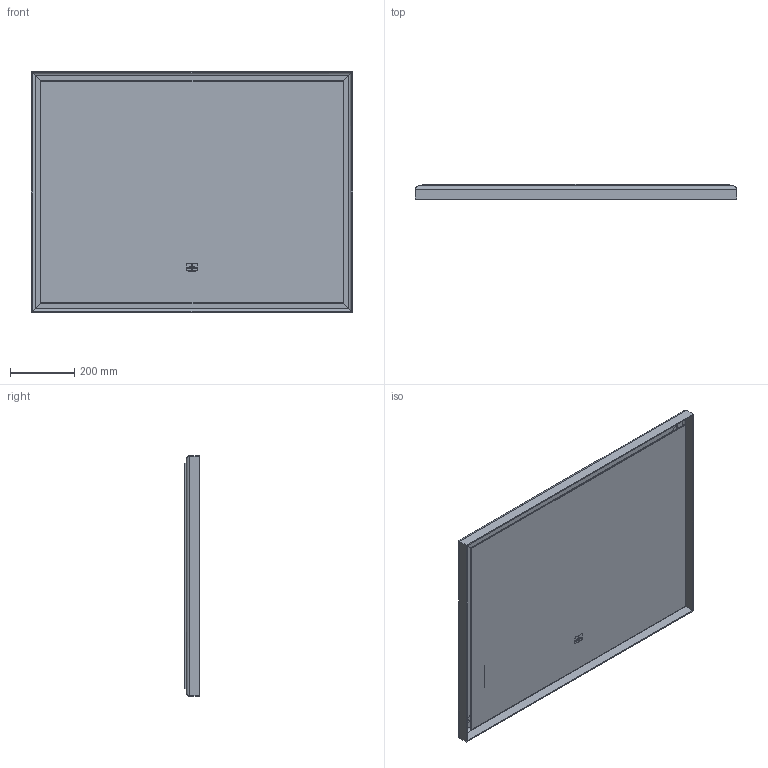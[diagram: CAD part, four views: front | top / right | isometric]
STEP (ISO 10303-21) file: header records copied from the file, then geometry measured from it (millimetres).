
FILE_DESCRIPTION(/* description */ (''),/* implementation_level */ '2;1');
FILE_NAME(/* name */ 'K:\ACAD\PERSPECT\Freisteller\V&B\Subway 3.0\A46310YY.stp',/* time_stamp */ '2020-07-28T15:24:35+02:00',/* author */ ('StegeR'),/* organization */ (''),/* preprocessor_version */ 'ST-DEVELOPER v16.1',/* originating_system */ 'Autodesk Inventor 2016',/* authorisation */ '');
FILE_SCHEMA (('AUTOMOTIVE_DESIGN { 1 0 10303 214 3 1 1 }'));
Length unit declared in the file: millimetre
Products named in the file (1): A46310YY
Bounding box: 1000 x 45.5 x 750 mm (x, y, z)
Volume: 4762514.5 mm3; surface area: 2654619.4 mm2
Topology: 35 solids, 35 shells, 802 faces, 2041 edges, 1358 vertices
Faces by surface type: plane 594, cylinder 200, bspline 8
Full cylindrical faces by diameter (mm): 0.488 x2, 4.4 x12, 5.8 x24
Entity records: 24117 total; most frequent: CARTESIAN_POINT 4308, ORIENTED_EDGE 4006, DIRECTION 4005, EDGE_CURVE 2003, LINE 1575, VECTOR 1575, VERTEX_POINT 1358, AXIS2_PLACEMENT_3D 1215
